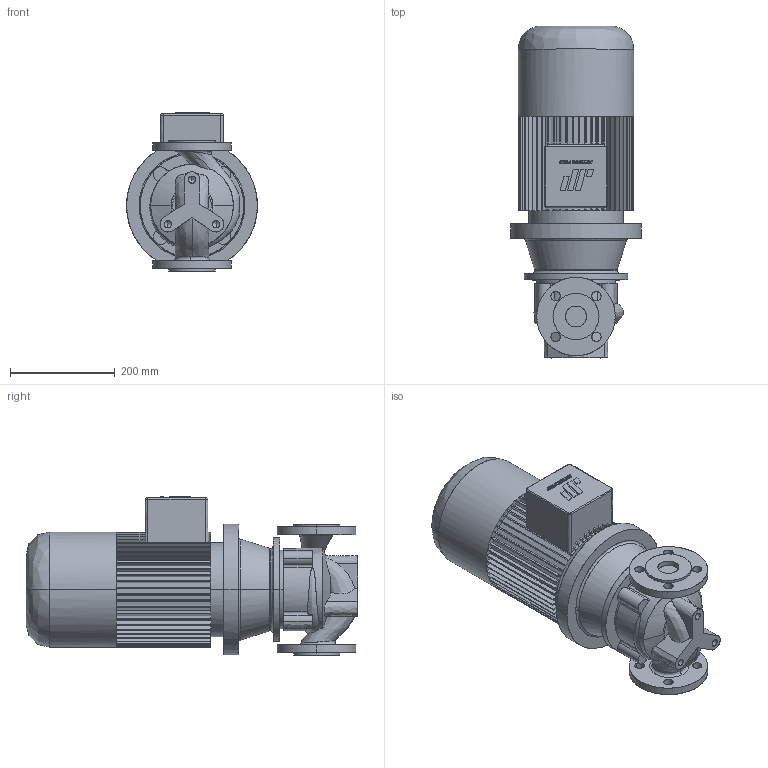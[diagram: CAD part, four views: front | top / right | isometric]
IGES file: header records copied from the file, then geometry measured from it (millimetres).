
Start section: CombiLine
Global section: file name: CLB_40-125_IEC112M_ND10.igs; native system:  By UGS Corp.; preprocessor: XPlus GENERIC/IGES 3.0; author: Stageplaats; organization: Johnson Pump Water B.V.; date: 20070716.103242; units: millimetre
Bounding box: 250 x 634 x 302 mm (x, y, z)
Surface area: 847045.4 mm2 (no closed solid volume)
Topology: 0 solids, 0 shells, 522 faces, 3177 edges, 3171 vertices
Faces by surface type: bspline 522
